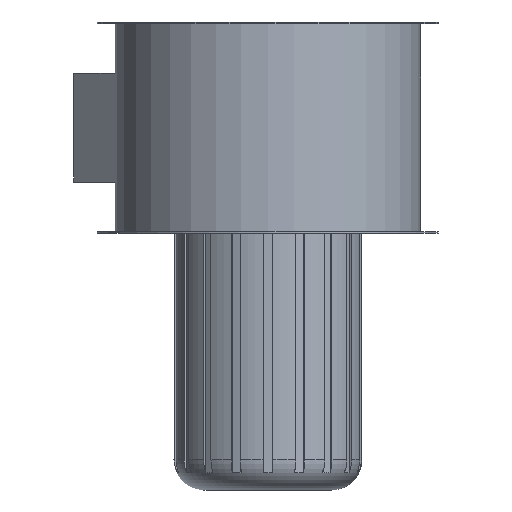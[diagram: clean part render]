
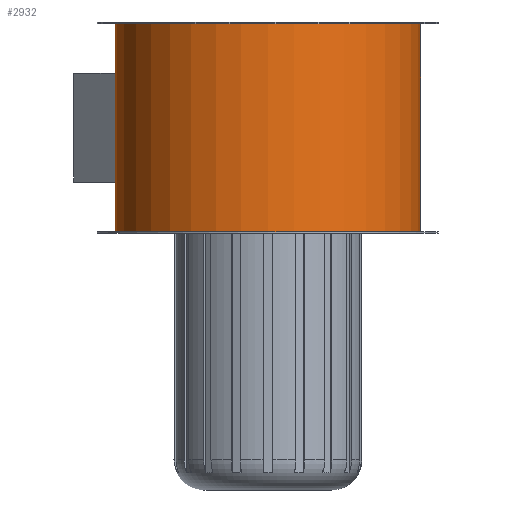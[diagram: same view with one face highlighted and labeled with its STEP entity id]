
A CAD part, front view. The second image highlights one B-rep face of the part: STEP entity #2932.
In plain terms, the highlighted cylindrical face has radius 253 mm (diameter 506 mm), a full revolution.
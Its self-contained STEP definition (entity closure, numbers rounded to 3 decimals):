
#234=FACE_BOUND('',#637,.T.);
#235=FACE_BOUND('',#638,.T.);
#386=CYLINDRICAL_SURFACE('',#3154,253.);
#443=FACE_OUTER_BOUND('',#636,.T.);
#636=EDGE_LOOP('',(#2047));
#637=EDGE_LOOP('',(#2048,#2049,#2050,#2051));
#638=EDGE_LOOP('',(#2052));
#832=CIRCLE('',#3070,253.);
#833=CIRCLE('',#3075,253.);
#884=CIRCLE('',#3155,253.);
#885=CIRCLE('',#3156,253.);
#971=LINE('',#4192,#1101);
#972=LINE('',#4195,#1102);
#1101=VECTOR('',#3410,10.);
#1102=VECTOR('',#3413,10.);
#1224=VERTEX_POINT('',#4175);
#1227=VERTEX_POINT('',#4180);
#1230=VERTEX_POINT('',#4190);
#1231=VERTEX_POINT('',#4194);
#1291=VERTEX_POINT('',#4550);
#1292=VERTEX_POINT('',#4552);
#1538=EDGE_CURVE('',#1224,#1227,#832,.T.);
#1543=EDGE_CURVE('',#1227,#1230,#971,.T.);
#1544=EDGE_CURVE('',#1231,#1224,#972,.T.);
#1546=EDGE_CURVE('',#1230,#1231,#833,.T.);
#1606=EDGE_CURVE('',#1291,#1291,#884,.F.);
#1607=EDGE_CURVE('',#1292,#1292,#885,.T.);
#2047=ORIENTED_EDGE('',*,*,#1606,.T.);
#2048=ORIENTED_EDGE('',*,*,#1538,.T.);
#2049=ORIENTED_EDGE('',*,*,#1543,.T.);
#2050=ORIENTED_EDGE('',*,*,#1546,.T.);
#2051=ORIENTED_EDGE('',*,*,#1544,.T.);
#2052=ORIENTED_EDGE('',*,*,#1607,.T.);
#2932=ADVANCED_FACE('',(#443,#234,#235),#386,.T.);
#3070=AXIS2_PLACEMENT_3D('',#4182,#3400,#3401);
#3075=AXIS2_PLACEMENT_3D('',#4198,#3417,#3418);
#3154=AXIS2_PLACEMENT_3D('',#4549,#3575,#3576);
#3155=AXIS2_PLACEMENT_3D('',#4551,#3577,#3578);
#3156=AXIS2_PLACEMENT_3D('',#4553,#3579,#3580);
#3400=DIRECTION('center_axis',(0.,0.,-1.));
#3401=DIRECTION('ref_axis',(-1.,0.,0.));
#3410=DIRECTION('',(0.,0.,1.));
#3413=DIRECTION('',(0.,0.,-1.));
#3417=DIRECTION('center_axis',(0.,0.,1.));
#3418=DIRECTION('ref_axis',(-1.,0.,0.));
#3575=DIRECTION('center_axis',(0.,0.,1.));
#3576=DIRECTION('ref_axis',(-1.,0.,0.));
#3577=DIRECTION('center_axis',(0.,0.,-1.));
#3578=DIRECTION('ref_axis',(-1.,0.,0.));
#3579=DIRECTION('center_axis',(0.,0.,-1.));
#3580=DIRECTION('ref_axis',(-1.,0.,0.));
#4175=CARTESIAN_POINT('',(-230.836,103.556,-90.));
#4180=CARTESIAN_POINT('',(-103.556,230.836,-90.));
#4182=CARTESIAN_POINT('Origin',(0.,0.,-90.));
#4190=CARTESIAN_POINT('',(-103.556,230.836,90.));
#4192=CARTESIAN_POINT('',(-103.556,230.836,0.));
#4194=CARTESIAN_POINT('',(-230.836,103.556,90.));
#4195=CARTESIAN_POINT('',(-230.836,103.556,0.));
#4198=CARTESIAN_POINT('Origin',(0.,0.,90.));
#4549=CARTESIAN_POINT('Origin',(0.,0.,0.));
#4550=CARTESIAN_POINT('',(253.,0.,-172.));
#4551=CARTESIAN_POINT('Origin',(0.,0.,-172.));
#4552=CARTESIAN_POINT('',(253.,0.,172.));
#4553=CARTESIAN_POINT('Origin',(0.,0.,172.));
